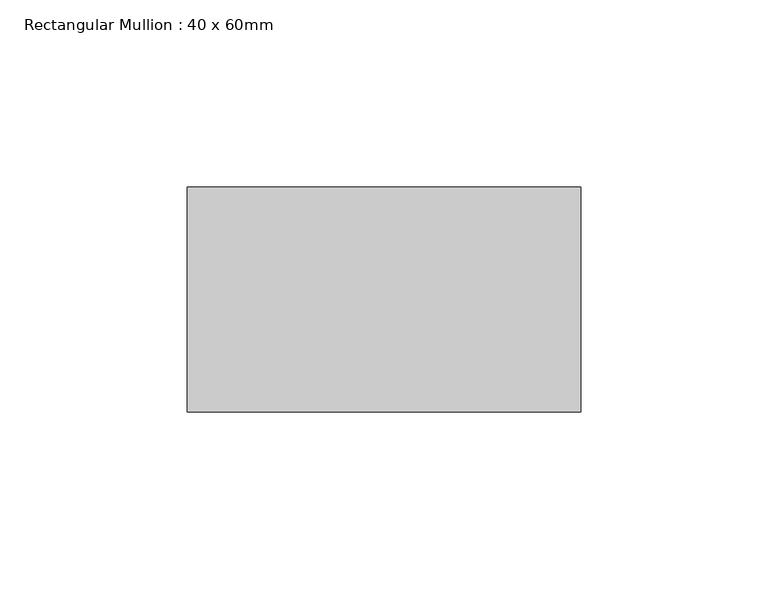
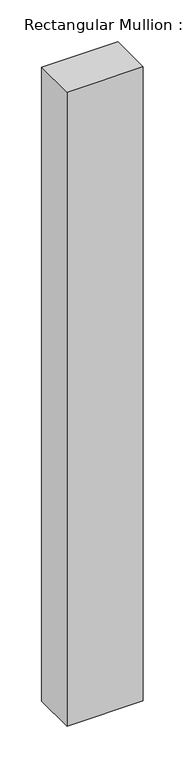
"""IFC4 building model written with IfcOpenShell, lengths in millimetres: member geometry, Rectangular Mullion : 40 x 60mm."""

from ifc_helpers import new_model, si_unit, frame, origin, place, context, project, spatial, polyline, outline, extrude, source, transform, mapped, element, save


def rectangular_mullion_40_x_60mm_97c02abe(model_context):
    return source(origin(), model_context, "Body", "SweptSolid", [
        extrude(outline(polyline([(80.0, -10.0), (80.0, -70.0), (-25.0, -70.0), (-25.0, -10.0), (80.0, -10.0)])), frame((0.0, 0.0, -922.2992883), z_axis=(0.0, 0.0, 1.0), x_axis=(1.0, 0.0, 0.0)), (0.0, 0.0, 1.0), 922.2992883),
    ])


if __name__ == "__main__":
    model = new_model("IFC4")
    model_context = context("Model", 3, world=origin())
    ifc_project = project(units=[si_unit("LENGTHUNIT", "METRE", prefix="MILLI")], contexts=[model_context])
    site = spatial("IfcSite", under=ifc_project)
    building = spatial("IfcBuilding", under=site)
    placement = place(None, origin())
    rectangular_mullion_40_x_60mm_shape = rectangular_mullion_40_x_60mm_97c02abe(model_context)
    element("IfcMember", 1, ObjectType="Rectangular Mullion : 40 x 60mm", at=placement, inside=building, context=model_context, shape_type="MappedRepresentation", body=[
        mapped(rectangular_mullion_40_x_60mm_shape, transform((0.0, 0.0, 0.0), x_axis=(1.0, 0.0, 0.0), y_axis=(0.0, 1.0, 0.0), z_axis=(0.0, 0.0, 1.0))),
    ])
    save(model, "model.ifc")
